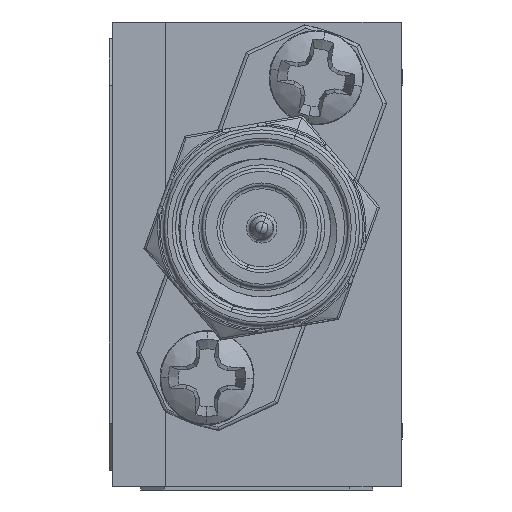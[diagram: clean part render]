
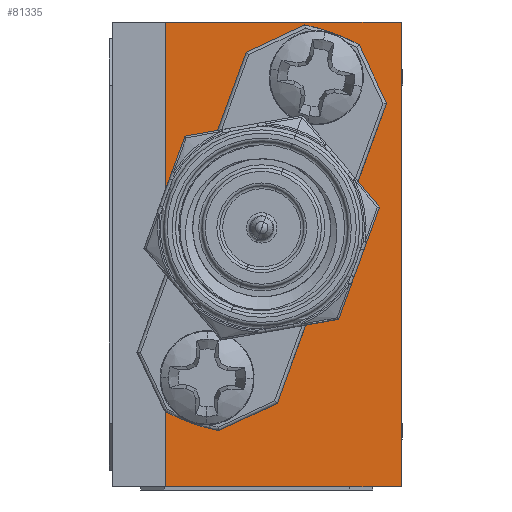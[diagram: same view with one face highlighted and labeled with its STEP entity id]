
A CAD part, left-side view. The second image highlights one B-rep face of the part: STEP entity #81335.
In plain terms, the highlighted planar face has unit normal (-1, 0, 0).
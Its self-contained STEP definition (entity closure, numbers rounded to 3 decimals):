
#746 = CARTESIAN_POINT ( 'NONE',  ( 0., 5.334, -7.874 ) ) ;
#1220 = DIRECTION ( 'NONE',  ( 0., 0., 1. ) ) ;
#1369 = CARTESIAN_POINT ( 'NONE',  ( 0., 0., 0. ) ) ;
#2229 = VECTOR ( 'NONE', #37701, 1000. ) ;
#3505 = CARTESIAN_POINT ( 'NONE',  ( 0., 3.245, -2.134 ) ) ;
#5628 = EDGE_CURVE ( 'NONE', #105270, #32442, #92706, .T. ) ;
#5801 = ORIENTED_EDGE ( 'NONE', *, *, #18633, .F. ) ;
#5819 = DIRECTION ( 'NONE',  ( 0., 0., 1. ) ) ;
#8393 = DIRECTION ( 'NONE',  ( 0., 0., 1. ) ) ;
#8664 = AXIS2_PLACEMENT_3D ( 'NONE', #106054, #61007, #8393 ) ;
#8735 = AXIS2_PLACEMENT_3D ( 'NONE', #3505, #64273, #1220 ) ;
#9735 = ORIENTED_EDGE ( 'NONE', *, *, #38310, .F. ) ;
#10725 = EDGE_LOOP ( 'NONE', ( #90365, #106471 ) ) ;
#13003 = CARTESIAN_POINT ( 'NONE',  ( 0., 9.017, 0. ) ) ;
#13248 = DIRECTION ( 'NONE',  ( -1., 0., 0. ) ) ;
#17694 = DIRECTION ( 'NONE',  ( -1., 0., 0. ) ) ;
#17809 = FACE_OUTER_BOUND ( 'NONE', #69937, .T. ) ;
#18633 = EDGE_CURVE ( 'NONE', #32442, #105270, #48020, .T. ) ;
#21446 = VECTOR ( 'NONE', #32014, 1000. ) ;
#21675 = VERTEX_POINT ( 'NONE', #112250 ) ;
#21806 = EDGE_CURVE ( 'NONE', #105611, #50796, #73890, .T. ) ;
#23537 = EDGE_CURVE ( 'NONE', #42995, #37134, #52775, .T. ) ;
#23685 = CARTESIAN_POINT ( 'NONE',  ( 0., 3.245, -3.226 ) ) ;
#24974 = VERTEX_POINT ( 'NONE', #13003 ) ;
#25369 = EDGE_CURVE ( 'NONE', #21675, #98050, #65293, .T. ) ;
#26473 = DIRECTION ( 'NONE',  ( 0., 0., 1. ) ) ;
#27087 = EDGE_CURVE ( 'NONE', #37134, #42995, #47108, .T. ) ;
#30215 = DIRECTION ( 'NONE',  ( 0., 0., 1. ) ) ;
#32014 = DIRECTION ( 'NONE',  ( 0., -1., 0. ) ) ;
#32442 = VERTEX_POINT ( 'NONE', #23685 ) ;
#32567 = DIRECTION ( 'NONE',  ( 0., 0., 1. ) ) ;
#36393 = CARTESIAN_POINT ( 'NONE',  ( 0., 5.334, -6.629 ) ) ;
#37134 = VERTEX_POINT ( 'NONE', #36393 ) ;
#37175 = CARTESIAN_POINT ( 'NONE',  ( 0., 9.017, 0. ) ) ;
#37701 = DIRECTION ( 'NONE',  ( 0., 0., 1. ) ) ;
#38310 = EDGE_CURVE ( 'NONE', #40966, #24974, #49631, .T. ) ;
#40966 = VERTEX_POINT ( 'NONE', #92142 ) ;
#42971 = FACE_BOUND ( 'NONE', #98417, .T. ) ;
#42995 = VERTEX_POINT ( 'NONE', #73826 ) ;
#47108 = CIRCLE ( 'NONE', #71322, 1.245 ) ;
#47730 = CARTESIAN_POINT ( 'NONE',  ( 0., 7.423, -13.614 ) ) ;
#48020 = CIRCLE ( 'NONE', #76022, 1.092 ) ;
#49631 = LINE ( 'NONE', #85344, #97495 ) ;
#50796 = VERTEX_POINT ( 'NONE', #1369 ) ;
#51988 = AXIS2_PLACEMENT_3D ( 'NONE', #97347, #79184, #114873 ) ;
#52775 = CIRCLE ( 'NONE', #106967, 1.245 ) ;
#54296 = ORIENTED_EDGE ( 'NONE', *, *, #23537, .F. ) ;
#55410 = ORIENTED_EDGE ( 'NONE', *, *, #87354, .F. ) ;
#61007 = DIRECTION ( 'NONE',  ( -1., 0., 0. ) ) ;
#62942 = EDGE_CURVE ( 'NONE', #98050, #21675, #73999, .T. ) ;
#64273 = DIRECTION ( 'NONE',  ( -1., 0., 0. ) ) ;
#64635 = DIRECTION ( 'NONE',  ( -1., 0., 0. ) ) ;
#65293 = CIRCLE ( 'NONE', #112084, 1.092 ) ;
#65672 = CARTESIAN_POINT ( 'NONE',  ( 0., 0., 0. ) ) ;
#65713 = LINE ( 'NONE', #37175, #102771 ) ;
#66887 = DIRECTION ( 'NONE',  ( 0., -1., 0. ) ) ;
#69937 = EDGE_LOOP ( 'NONE', ( #113545, #55410, #9735, #74953 ) ) ;
#71322 = AXIS2_PLACEMENT_3D ( 'NONE', #746, #17694, #26473 ) ;
#73826 = CARTESIAN_POINT ( 'NONE',  ( 0., 5.334, -9.119 ) ) ;
#73890 = LINE ( 'NONE', #65672, #2229 ) ;
#73999 = CIRCLE ( 'NONE', #8664, 1.092 ) ;
#74953 = ORIENTED_EDGE ( 'NONE', *, *, #76790, .T. ) ;
#76022 = AXIS2_PLACEMENT_3D ( 'NONE', #94506, #13248, #32567 ) ;
#76514 = ORIENTED_EDGE ( 'NONE', *, *, #5628, .F. ) ;
#76790 = EDGE_CURVE ( 'NONE', #40966, #105611, #85185, .T. ) ;
#79184 = DIRECTION ( 'NONE',  ( 1., 0., 0. ) ) ;
#81335 = ADVANCED_FACE ( 'NONE', ( #17809, #42971, #115457, #114288 ), #95617, .F. ) ;
#83388 = DIRECTION ( 'NONE',  ( 0., 0., 1. ) ) ;
#84585 = CARTESIAN_POINT ( 'NONE',  ( 0., 9.017, -17.78 ) ) ;
#85185 = LINE ( 'NONE', #84585, #21446 ) ;
#85344 = CARTESIAN_POINT ( 'NONE',  ( 0., 9.017, 0. ) ) ;
#86663 = ORIENTED_EDGE ( 'NONE', *, *, #27087, .F. ) ;
#87068 = CARTESIAN_POINT ( 'NONE',  ( 0., 7.423, -12.522 ) ) ;
#87354 = EDGE_CURVE ( 'NONE', #24974, #50796, #65713, .T. ) ;
#90365 = ORIENTED_EDGE ( 'NONE', *, *, #62942, .F. ) ;
#92142 = CARTESIAN_POINT ( 'NONE',  ( 0., 9.017, -17.78 ) ) ;
#92706 = CIRCLE ( 'NONE', #8735, 1.092 ) ;
#94506 = CARTESIAN_POINT ( 'NONE',  ( 0., 3.245, -2.134 ) ) ;
#95617 = PLANE ( 'NONE',  #51988 ) ;
#96567 = CARTESIAN_POINT ( 'NONE',  ( 0., 3.245, -1.041 ) ) ;
#97347 = CARTESIAN_POINT ( 'NONE',  ( 0., 9.017, 0. ) ) ;
#97495 = VECTOR ( 'NONE', #5819, 1000. ) ;
#98050 = VERTEX_POINT ( 'NONE', #87068 ) ;
#98417 = EDGE_LOOP ( 'NONE', ( #86663, #54296 ) ) ;
#98450 = EDGE_LOOP ( 'NONE', ( #76514, #5801 ) ) ;
#101567 = CARTESIAN_POINT ( 'NONE',  ( 0., 5.334, -7.874 ) ) ;
#102771 = VECTOR ( 'NONE', #66887, 1000. ) ;
#105270 = VERTEX_POINT ( 'NONE', #96567 ) ;
#105611 = VERTEX_POINT ( 'NONE', #107359 ) ;
#106054 = CARTESIAN_POINT ( 'NONE',  ( 0., 7.423, -13.614 ) ) ;
#106471 = ORIENTED_EDGE ( 'NONE', *, *, #25369, .F. ) ;
#106967 = AXIS2_PLACEMENT_3D ( 'NONE', #101567, #109207, #30215 ) ;
#107359 = CARTESIAN_POINT ( 'NONE',  ( 0., 0., -17.78 ) ) ;
#109207 = DIRECTION ( 'NONE',  ( -1., 0., 0. ) ) ;
#112084 = AXIS2_PLACEMENT_3D ( 'NONE', #47730, #64635, #83388 ) ;
#112250 = CARTESIAN_POINT ( 'NONE',  ( 0., 7.423, -14.707 ) ) ;
#113545 = ORIENTED_EDGE ( 'NONE', *, *, #21806, .T. ) ;
#114288 = FACE_BOUND ( 'NONE', #10725, .T. ) ;
#114873 = DIRECTION ( 'NONE',  ( 0., 0., -1. ) ) ;
#115457 = FACE_BOUND ( 'NONE', #98450, .T. ) ;
